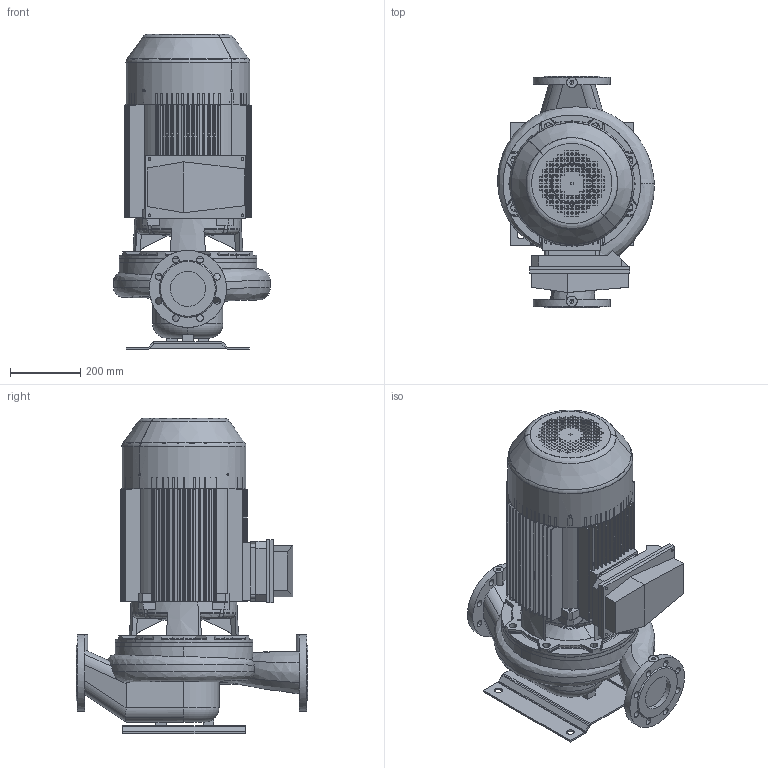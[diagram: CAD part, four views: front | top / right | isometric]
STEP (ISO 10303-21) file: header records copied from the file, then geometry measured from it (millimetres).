
FILE_DESCRIPTION(('STEP AP214'),'1');
FILE_NAME('export.stp','2018-05-29T07:47:43',(' '),(' '),'Spatial InterOp 3D',' ',' ');
FILE_SCHEMA(('AUTOMOTIVE_DESIGN { 1 0 10303 214 1 1 1 1 }'));
Length unit declared in the file: millimetre
Products named in the file (13): W_L100S2220KP186; V_TLL100SAL1202; V_PPL100S; P100496; P100495; P100342; V_MKP186-J1-BF31; R200119; R200132; R200136; R200138; R200137; R201121
Assembly tree (13 placements, depth 3):
  W_L100S2220KP186
    V_TLL100SAL1202
    V_PPL100S
    P100496
      P100495  x2
      P100342
    V_MKP186-J1-BF31
      R200119
      R200132
      R200136
      R200138
      R200137
      R201121
Bounding box: 446.61 x 660 x 898 mm (x, y, z)
Volume: 37778808.3 mm3; surface area: 4670205.9 mm2
Topology: 11 solids, 11 shells, 2248 faces, 6603 edges, 4364 vertices
Faces by surface type: plane 1263, cylinder 819, torus 65, cone 64, bspline 26, sphere 11
Entity records: 115241 total; most frequent: CARTESIAN_POINT 19216, ORIENTED_EDGE 13140, DIRECTION 12632, EDGE_CURVE 6570, STYLED_ITEM 5438, PRESENTATION_STYLE_ASSIGNMENT 5438, COLOUR_RGB 5438, VERTEX_POINT 4356
